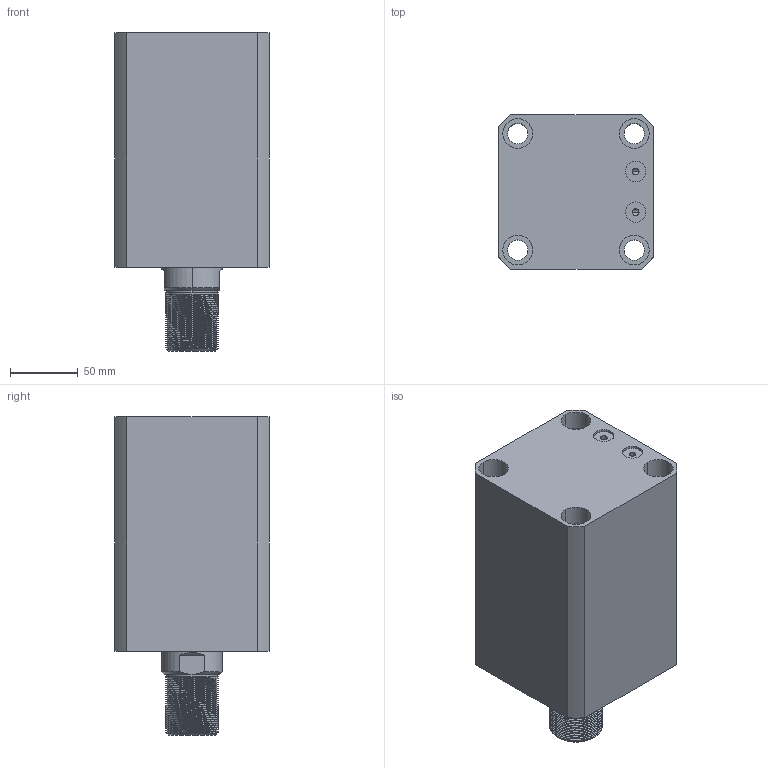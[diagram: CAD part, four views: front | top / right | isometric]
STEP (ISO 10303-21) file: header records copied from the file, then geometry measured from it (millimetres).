
FILE_DESCRIPTION (( 'STEP AP214' ), '1' );
FILE_NAME ('chtb-sdmb80x95w_asm.STEP', '2018-05-26T02:22:42', ( 'Windows' ), ( 'Microsoft' ), 'SwSTEP 2.0', 'SolidWorks 2015', '' );
FILE_SCHEMA (( 'AUTOMOTIVE_DESIGN' ));
Length unit declared in the file: millimetre
Products named in the file (4): CHTB-SDMB80X95NBT; CHTB-SD80X95WHSG; CHTB-SD80QG; chtb-sdmb80x95w_asm
Assembly tree (3 placements, depth 2):
  chtb-sdmb80x95w_asm
    CHTB-SD80QG
    CHTB-SD80X95WHSG
    CHTB-SDMB80X95NBT
Bounding box: 114 x 114 x 235 mm (x, y, z)
Volume: 1805724.3 mm3; surface area: 254376.8 mm2
Topology: 3 solids, 3 shells, 251 faces, 695 edges, 466 vertices
Faces by surface type: cylinder 163, plane 38, torus 18, bspline 16, cone 16
Entity records: 20297 total; most frequent: CARTESIAN_POINT 14321, ORIENTED_EDGE 1382, DIRECTION 1068, EDGE_CURVE 691, VERTEX_POINT 466, AXIS2_PLACEMENT_3D 433, EDGE_LOOP 289, FACE_OUTER_BOUND 251
